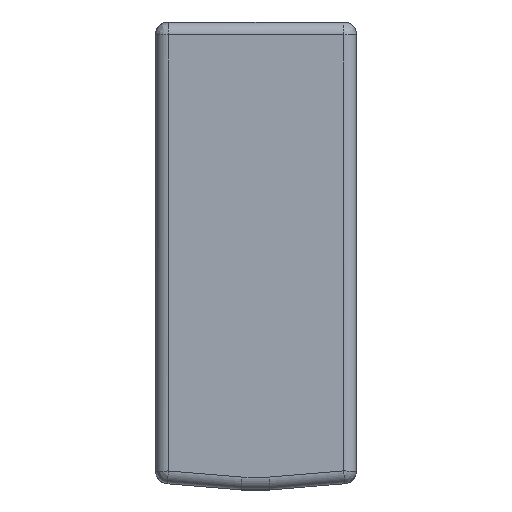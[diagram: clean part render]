
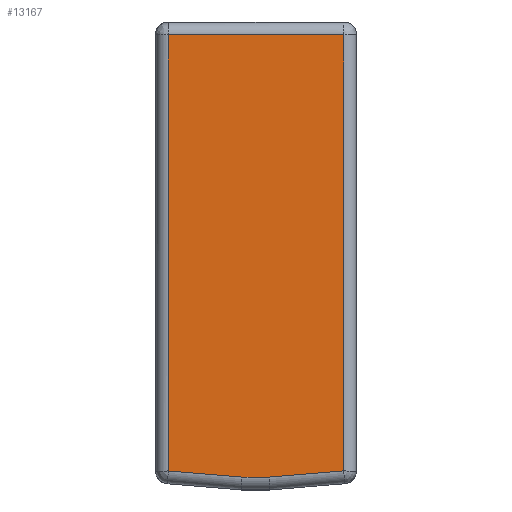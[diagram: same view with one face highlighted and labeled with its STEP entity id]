
A CAD part, front view. The second image highlights one B-rep face of the part: STEP entity #13167.
In plain terms, the highlighted planar face has unit normal (0, -1, 0).
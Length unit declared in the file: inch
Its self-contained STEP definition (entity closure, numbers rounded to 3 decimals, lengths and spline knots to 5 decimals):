
#494 = ORIENTED_EDGE ( 'NONE', *, *, #3085, .T. ) ;
#560 = CARTESIAN_POINT ( 'NONE',  ( 0.62269, -0.6235, -0.96553 ) ) ;
#1466 = VECTOR ( 'NONE', #3013, 39.37008 ) ;
#1530 = CARTESIAN_POINT ( 'NONE',  ( 1.43818, -0.6235, -0.91519 ) ) ;
#1702 = VERTEX_POINT ( 'NONE', #2667 ) ;
#2667 = CARTESIAN_POINT ( 'NONE',  ( 1.43456, -0.6235, -0.9155 ) ) ;
#2950 = DIRECTION ( 'NONE',  ( 1., 0., 0. ) ) ;
#3013 = DIRECTION ( 'NONE',  ( 0., 0., -1. ) ) ;
#3085 = EDGE_CURVE ( 'NONE', #4212, #1702, #11613, .T. ) ;
#3209 = EDGE_CURVE ( 'NONE', #4346, #13741, #4054, .T. ) ;
#3212 = CARTESIAN_POINT ( 'NONE',  ( 0.83904, -0.6235, -0.96519 ) ) ;
#3421 = AXIS2_PLACEMENT_3D ( 'NONE', #13411, #14569, #7665 ) ;
#3429 = VECTOR ( 'NONE', #3692, 39.37008 ) ;
#3692 = DIRECTION ( 'NONE',  ( 0., 0., 1. ) ) ;
#3714 = VECTOR ( 'NONE', #7965, 39.37008 ) ;
#4054 = LINE ( 'NONE', #560, #9808 ) ;
#4212 = VERTEX_POINT ( 'NONE', #3212 ) ;
#4346 = VERTEX_POINT ( 'NONE', #8579 ) ;
#5249 = ORIENTED_EDGE ( 'NONE', *, *, #5434, .T. ) ;
#5285 = ORIENTED_EDGE ( 'NONE', *, *, #3209, .T. ) ;
#5434 = EDGE_CURVE ( 'NONE', #13741, #4212, #8284, .T. ) ;
#5843 = VECTOR ( 'NONE', #8391, 39.37008 ) ;
#6070 = EDGE_CURVE ( 'NONE', #1702, #9183, #6099, .T. ) ;
#6099 = LINE ( 'NONE', #10583, #3429 ) ;
#6497 = PLANE ( 'NONE',  #3421 ) ;
#6747 = LINE ( 'NONE', #14924, #3714 ) ;
#7018 = ORIENTED_EDGE ( 'NONE', *, *, #6070, .T. ) ;
#7194 = ORIENTED_EDGE ( 'NONE', *, *, #11387, .T. ) ;
#7498 = CARTESIAN_POINT ( 'NONE',  ( 0.02894, -0.6235, 2.58495 ) ) ;
#7665 = DIRECTION ( 'NONE',  ( 1., 0., 0. ) ) ;
#7779 = FACE_OUTER_BOUND ( 'NONE', #13013, .T. ) ;
#7965 = DIRECTION ( 'NONE',  ( -1., 0., 0. ) ) ;
#8284 = LINE ( 'NONE', #13256, #14061 ) ;
#8391 = DIRECTION ( 'NONE',  ( 0.997, 0., 0.083 ) ) ;
#8579 = CARTESIAN_POINT ( 'NONE',  ( 0.02894, -0.6235, -0.91599 ) ) ;
#9183 = VERTEX_POINT ( 'NONE', #9339 ) ;
#9339 = CARTESIAN_POINT ( 'NONE',  ( 1.43456, -0.6235, 2.58495 ) ) ;
#9765 = DIRECTION ( 'NONE',  ( 0.997, 0., -0.083 ) ) ;
#9808 = VECTOR ( 'NONE', #9765, 39.37008 ) ;
#10583 = CARTESIAN_POINT ( 'NONE',  ( 1.43456, -0.6235, 2.58889 ) ) ;
#11198 = ORIENTED_EDGE ( 'NONE', *, *, #14391, .T. ) ;
#11387 = EDGE_CURVE ( 'NONE', #9183, #12241, #6747, .T. ) ;
#11613 = LINE ( 'NONE', #1530, #5843 ) ;
#12241 = VERTEX_POINT ( 'NONE', #7498 ) ;
#12974 = LINE ( 'NONE', #13373, #1466 ) ;
#13013 = EDGE_LOOP ( 'NONE', ( #494, #7018, #7194, #11198, #5285, #5249 ) ) ;
#13167 = ADVANCED_FACE ( 'NONE', ( #7779 ), #6497, .T. ) ;
#13256 = CARTESIAN_POINT ( 'NONE',  ( 0.84317, -0.6235, -0.96519 ) ) ;
#13373 = CARTESIAN_POINT ( 'NONE',  ( 0.02894, -0.6235, -0.91961 ) ) ;
#13411 = CARTESIAN_POINT ( 'NONE',  ( 0., -0.6235, 0. ) ) ;
#13741 = VERTEX_POINT ( 'NONE', #14556 ) ;
#14061 = VECTOR ( 'NONE', #2950, 39.37008 ) ;
#14391 = EDGE_CURVE ( 'NONE', #12241, #4346, #12974, .T. ) ;
#14556 = CARTESIAN_POINT ( 'NONE',  ( 0.61857, -0.6235, -0.96519 ) ) ;
#14569 = DIRECTION ( 'NONE',  ( 0., -1., 0. ) ) ;
#14924 = CARTESIAN_POINT ( 'NONE',  ( 0.025, -0.6235, 2.58495 ) ) ;
